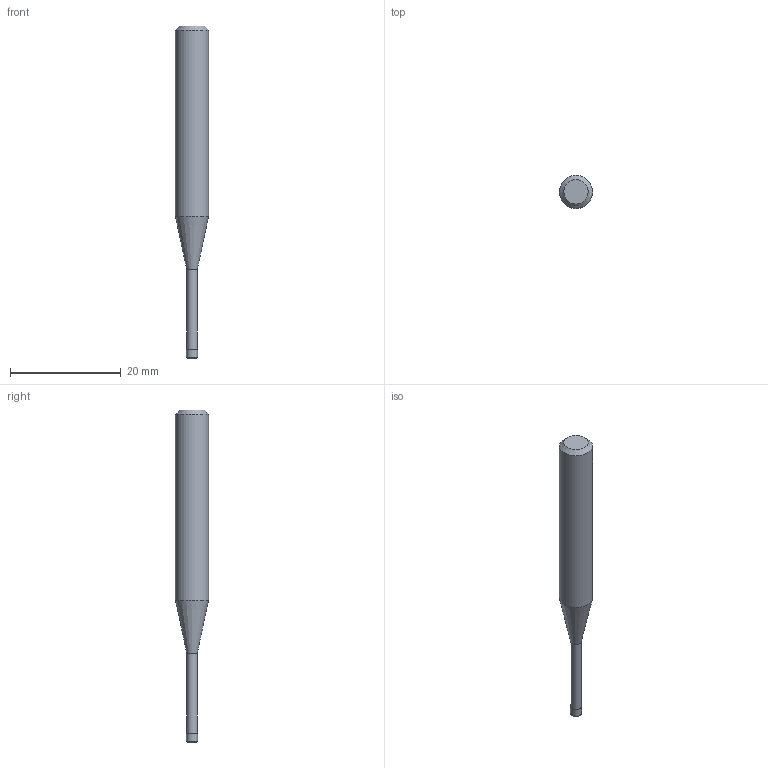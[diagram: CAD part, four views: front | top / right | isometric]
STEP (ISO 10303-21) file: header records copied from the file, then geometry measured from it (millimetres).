
FILE_DESCRIPTION((''),'2;1');
FILE_NAME('C:\Users\nsx150\AppData\Local\Temp\Mastercam 2021\17T8Q8S9EB\TEMP.step','2021-04-21T14:36:50',(''),(''),'STEP Write','Mastercam 2021 ... CNC Software, Inc.','');
FILE_SCHEMA(('AUTOMOTIVE_DESIGN'));
Length unit declared in the file: millimetre
Products named in the file (1): None
Bounding box: 6 x 6 x 60 mm (x, y, z)
Volume: 1141.6 mm3; surface area: 894.2 mm2
Topology: 2 solids, 2 shells, 10 faces, 14 edges, 8 vertices
Faces by surface type: plane 4, cylinder 3, cone 2, torus 1
Full cylindrical faces by diameter (mm): 1.91 x1, 2 x1, 6 x1
Entity records: 232 total; most frequent: DIRECTION 40, CARTESIAN_POINT 28, AXIS2_PLACEMENT_3D 20, ORIENTED_EDGE 16, EDGE_LOOP 16, STYLED_ITEM 13, ADVANCED_FACE 10, FACE_BOUND 10
